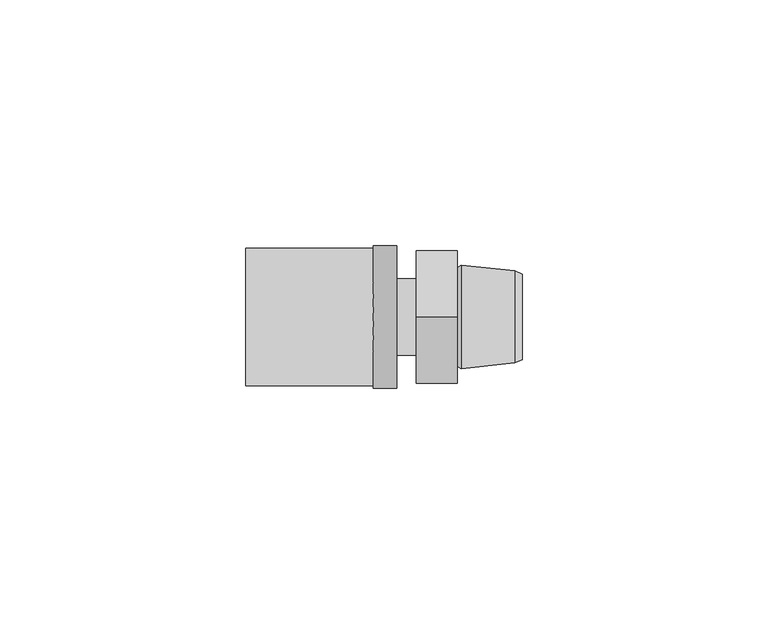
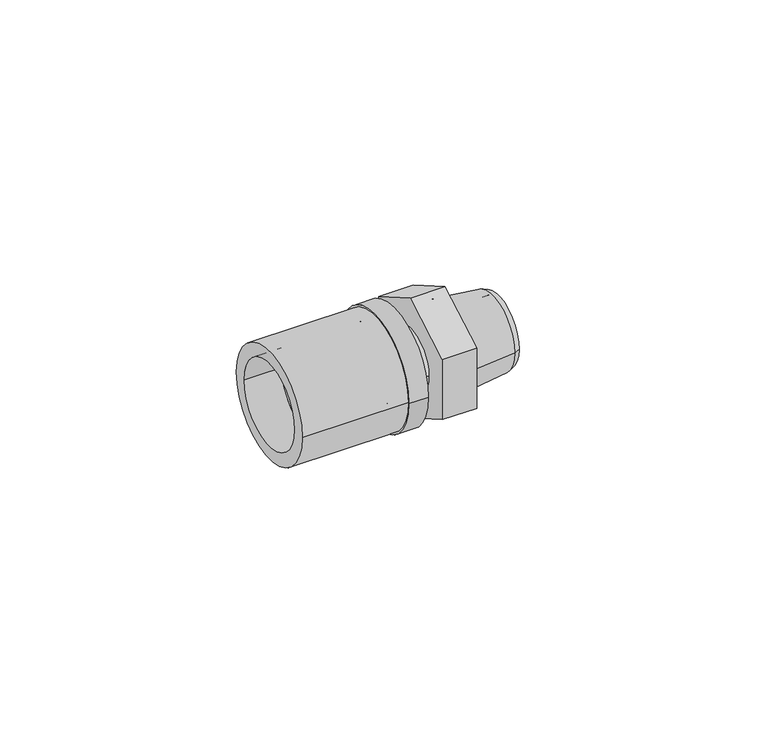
"""IFC4 building model written with IfcOpenShell, lengths in millimetres: pipe fitting geometry, FASTLOC_Adapter_LX, with external thread : FSL A C external CZ."""

from ifc_helpers import new_model, si_unit, point, frame, origin, origin_2d, place, context, project, spatial, polyline, circle_curve, trimmed, segment, composite_curve, outline, extrude, source, transform, mapped, element, save
from ifc_brep_helpers import plane_surface, cylinder_surface, revolved_surface, advanced_brep


def pipe_fitting_38e91122(model_context):
    return source(origin(), model_context, "Body", "SolidModel", [
        extrude(outline(composite_curve([segment(trimmed(circle_curve(origin_2d(), 14.0), [point((14.0, 0.0))], [point((-14.0, 0.0))], False, "CARTESIAN"), True, "CONTINUOUS"), segment(trimmed(circle_curve(origin_2d(), 14.0), [point((-14.0, 0.0))], [point((14.0, 0.0))], False, "CARTESIAN"), True, "CONTINUOUS")], self_intersect=False), holes=[composite_curve([segment(trimmed(circle_curve(origin_2d(), 10.7), [point((10.7, 0.0))], [point((-10.7, 0.0))], True, "CARTESIAN"), True, "CONTINUOUS"), segment(trimmed(circle_curve(origin_2d(), 10.7), [point((-10.7, 0.0))], [point((10.7, 0.0))], True, "CARTESIAN"), True, "CONTINUOUS")], self_intersect=False)]), frame((-34.7, 0.0, 0.0), z_axis=(1.0, 0.0, 0.0), x_axis=(0.0, 1.0, 0.0)), (0.0, 0.0, 1.0), 26.0),
        advanced_brep(
        [(-8.7, -14.5, 0.0), (-8.7, 14.5, 0.0), (-4.0, 14.5, 0.0), (-4.0, -14.5, 0.0), (-25.7, -11.85, 0.0), (-25.7, 11.85, 0.0), (-8.7, 11.85, 0.0), (-8.7, -11.85, 0.0), (-4.0, -10.15, 0.0), (-4.0, 10.15, 0.0), (-25.7, 10.15, 0.0), (-25.7, -10.15, 0.0)],
        [
            (0, 1, circle_curve(frame((-8.7, 0.0, 0.0), z_axis=(1.0, 0.0, 0.0), x_axis=(0.0, 1.0, 0.0)), 14.5)),
            (1, 2),
            (2, 3, circle_curve(frame((-4.0, 0.0, 0.0), z_axis=(-1.0, 0.0, 0.0), x_axis=(0.0, 1.0, 0.0)), 14.5)),
            (3, 0),
            (4, 5, circle_curve(frame((-25.7, 0.0, 0.0), z_axis=(1.0, 0.0, 0.0), x_axis=(0.0, 1.0, 0.0)), 11.85)),
            (5, 6),
            (6, 7, circle_curve(frame((-8.7, 0.0, 0.0), z_axis=(-1.0, 0.0, 0.0), x_axis=(0.0, 1.0, 0.0)), 11.85)),
            (7, 4),
            (8, 9, circle_curve(frame((-4.0, 0.0, 0.0), z_axis=(1.0, 0.0, 0.0), x_axis=(0.0, 1.0, 0.0)), 10.15)),
            (9, 10),
            (10, 11, circle_curve(frame((-25.7, 0.0, 0.0), z_axis=(-1.0, 0.0, 0.0), x_axis=(0.0, 1.0, 0.0)), 10.15)),
            (11, 8),
            (1, 0, circle_curve(frame((-8.7, 0.0, 0.0), z_axis=(1.0, 0.0, 0.0), x_axis=(0.0, -1.0, 0.0)), 14.5)),
            (3, 2, circle_curve(frame((-4.0, 0.0, 0.0), z_axis=(-1.0, 0.0, 0.0), x_axis=(0.0, -1.0, 0.0)), 14.5)),
            (6, 7, circle_curve(frame((-8.7, 0.0, 0.0), z_axis=(1.0, 0.0, 0.0), x_axis=(0.0, -1.0, 0.0)), 11.85)),
            (5, 4, circle_curve(frame((-25.7, 0.0, 0.0), z_axis=(1.0, 0.0, 0.0), x_axis=(0.0, -1.0, 0.0)), 11.85)),
            (10, 11, circle_curve(frame((-25.7, 0.0, 0.0), z_axis=(1.0, 0.0, 0.0), x_axis=(0.0, -1.0, 0.0)), 10.15)),
            (9, 8, circle_curve(frame((-4.0, 0.0, 0.0), z_axis=(1.0, 0.0, 0.0), x_axis=(0.0, -1.0, 0.0)), 10.15)),
        ],
        [
            cylinder_surface(frame((-4.0, 0.0, 0.0), z_axis=(-1.0, 0.0, 0.0), x_axis=(0.0, 1.0, 0.0)), 14.5),
            cylinder_surface(frame((-4.0, 0.0, 0.0), z_axis=(-1.0, 0.0, 0.0), x_axis=(0.0, 1.0, 0.0)), 11.85),
            revolved_surface(polyline([(-25.7, 10.15, 0.0), (-4.0, 10.15, 0.0)]), (-4.0, 0.0, 0.0), (-1.0, 0.0, 0.0)),
            cylinder_surface(frame((-4.0, 0.0, 0.0), z_axis=(-1.0, 0.0, 0.0), x_axis=(0.0, -1.0, 0.0)), 14.5),
            plane_surface(frame((-8.7, 0.0, 0.0), z_axis=(-1.0, 0.0, 0.0), x_axis=(0.0, -1.0, 0.0))),
            cylinder_surface(frame((-4.0, 0.0, 0.0), z_axis=(-1.0, 0.0, 0.0), x_axis=(0.0, -1.0, 0.0)), 11.85),
            plane_surface(frame((-25.7, 0.0, 0.0), z_axis=(-1.0, 0.0, 0.0), x_axis=(0.0, -1.0, 0.0))),
            revolved_surface(polyline([(-25.7, -10.15, 0.0), (-4.0, -10.15, 0.0)]), (-4.0, 0.0, 0.0), (-1.0, 0.0, 0.0)),
            plane_surface(frame((-4.0, 0.0, 0.0), z_axis=(1.0, 0.0, 0.0), x_axis=(0.0, -1.0, 0.0))),
        ],
        [
            (0, [[1, 2, 3, 4]]),
            (1, [[5, 6, 7, 8]]),
            (2, [[9, 10, 11, 12]]),
            (3, [[13, -4, 14, -2]]),
            (4, [[-13, -1], [15, -7]]),
            (5, [[16, -8, -15, -6]]),
            (6, [[-16, -5], [17, -11]]),
            (7, [[18, -12, -17, -10]]),
            (8, [[-14, -3], [-18, -9]]),
        ],
    ),
        advanced_brep(
        [(-8.7, 7.75, 0.0), (-8.7, -7.75, 0.0), (-26.0, -7.75, 0.0), (-26.0, 7.75, 0.0), (-6.0, 8.8, 0.0), (-6.0, -8.8, 0.0), (-8.7, -8.8, 0.0), (-8.7, 8.8, 0.0), (0.0, 7.75, 0.0), (0.0, -7.75, 0.0), (-6.0, -7.75, 0.0), (-6.0, 7.75, 0.0), (-26.0, 5.75, 0.0), (-26.0, -5.75, 0.0), (0.0, -5.75, 0.0), (0.0, 5.75, 0.0)],
        [
            (0, 1, circle_curve(frame((-8.7, 0.0, 0.0), z_axis=(-1.0, 0.0, 0.0), x_axis=(0.0, -1.0, 0.0)), 7.75)),
            (1, 2),
            (2, 3, circle_curve(frame((-26.0, 0.0, 0.0), z_axis=(1.0, 0.0, 0.0), x_axis=(0.0, -1.0, 0.0)), 7.75)),
            (3, 0),
            (4, 5, circle_curve(frame((-6.0, 0.0, 0.0), z_axis=(-1.0, 0.0, 0.0), x_axis=(0.0, -1.0, 0.0)), 8.8)),
            (5, 6),
            (6, 7, circle_curve(frame((-8.7, 0.0, 0.0), z_axis=(1.0, 0.0, 0.0), x_axis=(0.0, -1.0, 0.0)), 8.8)),
            (7, 4),
            (8, 9, circle_curve(frame((0.0, 0.0, 0.0), z_axis=(-1.0, 0.0, 0.0), x_axis=(0.0, -1.0, 0.0)), 7.75)),
            (9, 10),
            (10, 11, circle_curve(frame((-6.0, 0.0, 0.0), z_axis=(1.0, 0.0, 0.0), x_axis=(0.0, -1.0, 0.0)), 7.75)),
            (11, 8),
            (12, 13, circle_curve(frame((-26.0, 0.0, 0.0), z_axis=(-1.0, 0.0, 0.0), x_axis=(0.0, -1.0, 0.0)), 5.75)),
            (13, 14),
            (14, 15, circle_curve(frame((0.0, 0.0, 0.0), z_axis=(1.0, 0.0, 0.0), x_axis=(0.0, -1.0, 0.0)), 5.75)),
            (15, 12),
            (2, 3, circle_curve(frame((-26.0, 0.0, 0.0), z_axis=(-1.0, 0.0, 0.0), x_axis=(0.0, 1.0, 0.0)), 7.75)),
            (12, 13, circle_curve(frame((-26.0, 0.0, 0.0), z_axis=(1.0, 0.0, 0.0), x_axis=(0.0, 1.0, 0.0)), 5.75)),
            (1, 0, circle_curve(frame((-8.7, 0.0, 0.0), z_axis=(-1.0, 0.0, 0.0), x_axis=(0.0, 1.0, 0.0)), 7.75)),
            (6, 7, circle_curve(frame((-8.7, 0.0, 0.0), z_axis=(-1.0, 0.0, 0.0), x_axis=(0.0, 1.0, 0.0)), 8.8)),
            (5, 4, circle_curve(frame((-6.0, 0.0, 0.0), z_axis=(-1.0, 0.0, 0.0), x_axis=(0.0, 1.0, 0.0)), 8.8)),
            (10, 11, circle_curve(frame((-6.0, 0.0, 0.0), z_axis=(-1.0, 0.0, 0.0), x_axis=(0.0, 1.0, 0.0)), 7.75)),
            (9, 8, circle_curve(frame((0.0, 0.0, 0.0), z_axis=(-1.0, 0.0, 0.0), x_axis=(0.0, 1.0, 0.0)), 7.75)),
            (14, 15, circle_curve(frame((0.0, 0.0, 0.0), z_axis=(-1.0, 0.0, 0.0), x_axis=(0.0, 1.0, 0.0)), 5.75)),
        ],
        [
            cylinder_surface(frame((0.0, 0.0, 0.0), z_axis=(1.0, 0.0, 0.0), x_axis=(0.0, -1.0, 0.0)), 7.75),
            cylinder_surface(frame((0.0, 0.0, 0.0), z_axis=(1.0, 0.0, 0.0), x_axis=(0.0, -1.0, 0.0)), 8.8),
            revolved_surface(polyline([(0.0, -5.75, 0.0), (-26.0, -5.75, 0.0)]), (0.0, 0.0, 0.0), (1.0, 0.0, 0.0)),
            plane_surface(frame((-26.0, 0.0, 0.0), z_axis=(-1.0, 0.0, 0.0), x_axis=(0.0, 1.0, 0.0))),
            cylinder_surface(frame((0.0, 0.0, 0.0), z_axis=(1.0, 0.0, 0.0), x_axis=(0.0, 1.0, 0.0)), 7.75),
            plane_surface(frame((-8.7, 0.0, 0.0), z_axis=(-1.0, 0.0, 0.0), x_axis=(0.0, 1.0, 0.0))),
            cylinder_surface(frame((0.0, 0.0, 0.0), z_axis=(1.0, 0.0, 0.0), x_axis=(0.0, 1.0, 0.0)), 8.8),
            plane_surface(frame((-6.0, 0.0, 0.0), z_axis=(1.0, 0.0, 0.0), x_axis=(0.0, 1.0, 0.0))),
            plane_surface(frame((0.0, 0.0, 0.0), z_axis=(1.0, 0.0, 0.0), x_axis=(0.0, 1.0, 0.0))),
            revolved_surface(polyline([(0.0, 5.75, 0.0), (-26.0, 5.75, 0.0)]), (0.0, 0.0, 0.0), (1.0, 0.0, 0.0)),
        ],
        [
            (0, [[1, 2, 3, 4]]),
            (1, [[5, 6, 7, 8]]),
            (0, [[9, 10, 11, 12]]),
            (2, [[13, 14, 15, 16]]),
            (3, [[17, -3], [18, -13]]),
            (4, [[19, -4, -17, -2]]),
            (5, [[20, -7], [-19, -1]]),
            (6, [[21, -8, -20, -6]]),
            (7, [[-21, -5], [22, -11]]),
            (4, [[23, -12, -22, -10]]),
            (8, [[-23, -9], [24, -15]]),
            (9, [[-18, -16, -24, -14]]),
        ],
    ),
        advanced_brep(
        [(9.5032803, 7.5, 0.0), (9.5032803, -7.5, 0.0), (21.6, -7.5, 0.0), (21.6, 7.5, 0.0), (8.4, 6.3967197, 0.0), (8.4, -6.3967197, 0.0), (9.1406902, 10.55, 0.0), (9.1406902, -10.55, 0.0), (8.4, -10.0, 0.0), (8.4, 10.0, 0.0), (20.1000007, 9.35, 0.0), (20.1000007, -9.35, 0.0), (21.6, 8.725, 0.0), (21.6, -8.725, 0.0)],
        [
            (0, 1, circle_curve(frame((9.5032803, 0.0, 0.0), z_axis=(-1.0, 0.0, 0.0), x_axis=(0.0, -1.0, 0.0)), 7.5)),
            (1, 2),
            (2, 3, circle_curve(frame((21.6, 0.0, 0.0), z_axis=(1.0, 0.0, 0.0), x_axis=(0.0, -1.0, 0.0)), 7.5)),
            (3, 0),
            (4, 5, circle_curve(frame((8.4, 0.0, 0.0), z_axis=(-1.0, 0.0, 0.0), x_axis=(0.0, -1.0, 0.0)), 6.3967197)),
            (5, 1),
            (0, 4),
            (6, 7, circle_curve(frame((9.1406902, 0.0, 0.0), z_axis=(-1.0, 0.0, 0.0), x_axis=(0.0, -1.0, 0.0)), 10.55)),
            (7, 8),
            (8, 9, circle_curve(frame((8.4, 0.0, 0.0), z_axis=(1.0, 0.0, 0.0), x_axis=(0.0, -1.0, 0.0)), 10.0)),
            (9, 6),
            (10, 11, circle_curve(frame((20.1000007, 0.0, 0.0), z_axis=(-1.0, 0.0, 0.0), x_axis=(0.0, -1.0, 0.0)), 9.35)),
            (11, 7),
            (6, 10),
            (12, 13, circle_curve(frame((21.6, 0.0, 0.0), z_axis=(-1.0, 0.0, 0.0), x_axis=(0.0, -1.0, 0.0)), 8.725)),
            (13, 11),
            (10, 12),
            (1, 0, circle_curve(frame((9.5032803, 0.0, 0.0), z_axis=(-1.0, 0.0, 0.0), x_axis=(0.0, 1.0, 0.0)), 7.5)),
            (3, 2, circle_curve(frame((21.6, 0.0, 0.0), z_axis=(1.0, 0.0, 0.0), x_axis=(0.0, 1.0, 0.0)), 7.5)),
            (5, 4, circle_curve(frame((8.4, 0.0, 0.0), z_axis=(-1.0, 0.0, 0.0), x_axis=(0.0, 1.0, 0.0)), 6.3967197)),
            (8, 9, circle_curve(frame((8.4, 0.0, 0.0), z_axis=(-1.0, 0.0, 0.0), x_axis=(0.0, 1.0, 0.0)), 10.0)),
            (7, 6, circle_curve(frame((9.1406902, 0.0, 0.0), z_axis=(-1.0, 0.0, 0.0), x_axis=(0.0, 1.0, 0.0)), 10.55)),
            (11, 10, circle_curve(frame((20.1000007, 0.0, 0.0), z_axis=(-1.0, 0.0, 0.0), x_axis=(0.0, 1.0, 0.0)), 9.35)),
            (13, 12, circle_curve(frame((21.6, 0.0, 0.0), z_axis=(-1.0, 0.0, 0.0), x_axis=(0.0, 1.0, 0.0)), 8.725)),
        ],
        [
            revolved_surface(polyline([(21.6, -7.5, 0.0), (9.5032803, -7.5, 0.0)]), (0.0, 0.0, 0.0), (1.0, 0.0, 0.0)),
            revolved_surface(polyline([(9.5032803, -7.5, 0.0), (8.4, -6.3967197, 0.0)]), (0.0, 0.0, 0.0), (1.0, 0.0, 0.0)),
            revolved_surface(polyline([(8.4, -10.0, 0.0), (9.1406902, -10.55, 0.0)]), (0.0, 0.0, 0.0), (1.0, 0.0, 0.0)),
            revolved_surface(polyline([(9.1406902, -10.55, 0.0), (20.1000007, -9.35, 0.0)]), (0.0, 0.0, 0.0), (1.0, 0.0, 0.0)),
            revolved_surface(polyline([(20.1000007, -9.35, 0.0), (21.6, -8.725, 0.0)]), (0.0, 0.0, 0.0), (1.0, 0.0, 0.0)),
            revolved_surface(polyline([(21.6, 7.5, 0.0), (9.5032803, 7.5, 0.0)]), (0.0, 0.0, 0.0), (1.0, 0.0, 0.0)),
            revolved_surface(polyline([(9.5032803, 7.5, 0.0), (8.4, 6.3967197, 0.0)]), (0.0, 0.0, 0.0), (1.0, 0.0, 0.0)),
            plane_surface(frame((8.4, 0.0, 0.0), z_axis=(-1.0, 0.0, 0.0), x_axis=(0.0, 1.0, 0.0))),
            revolved_surface(polyline([(8.4, 10.0, 0.0), (9.1406902, 10.55, 0.0)]), (0.0, 0.0, 0.0), (1.0, 0.0, 0.0)),
            revolved_surface(polyline([(9.1406902, 10.55, 0.0), (20.1000007, 9.35, 0.0)]), (0.0, 0.0, 0.0), (1.0, 0.0, 0.0)),
            revolved_surface(polyline([(20.1000007, 9.35, 0.0), (21.6, 8.725, 0.0)]), (0.0, 0.0, 0.0), (1.0, 0.0, 0.0)),
            plane_surface(frame((21.6, 0.0, 0.0), z_axis=(1.0, 0.0, 0.0), x_axis=(0.0, 1.0, 0.0))),
        ],
        [
            (0, [[1, 2, 3, 4]]),
            (1, [[5, 6, -1, 7]]),
            (2, [[8, 9, 10, 11]]),
            (3, [[12, 13, -8, 14]]),
            (4, [[15, 16, -12, 17]]),
            (5, [[18, -4, 19, -2]]),
            (6, [[20, -7, -18, -6]]),
            (7, [[21, -10], [-20, -5]]),
            (8, [[22, -11, -21, -9]]),
            (9, [[23, -14, -22, -13]]),
            (10, [[24, -17, -23, -16]]),
            (11, [[-24, -15], [-19, -3]]),
        ],
    ),
        extrude(outline(polyline([(-13.5, 7.7942286), (0.0, 15.5884573), (13.5, 7.7942286), (13.5, -7.7942286), (0.0, -15.5884573), (-13.5, -7.7942286), (-13.5, 7.7942286)])), frame((0.0, 0.0, 0.0), z_axis=(1.0, 0.0, 0.0), x_axis=(0.0, 1.0, 0.0)), (0.0, 0.0, 1.0), 8.4),
    ])


if __name__ == "__main__":
    model = new_model("IFC4")
    model_context = context("Model", 3, world=origin())
    ifc_project = project(units=[si_unit("LENGTHUNIT", "METRE", prefix="MILLI")], contexts=[model_context])
    site = spatial("IfcSite", under=ifc_project)
    building = spatial("IfcBuilding", under=site)
    placement = place(None, origin())
    pipe_fitting_shape = pipe_fitting_38e91122(model_context)
    element("IfcPipeFitting", 1, ObjectType="FASTLOC_Adapter_LX, with external thread : FSL A C external CZ", at=placement, inside=building, context=model_context, shape_type="MappedRepresentation", body=[
        mapped(pipe_fitting_shape, transform((0.0, 0.0, 0.0), x_axis=(1.0, 0.0, 0.0), y_axis=(0.0, 1.0, 0.0), z_axis=(0.0, 0.0, 1.0))),
    ])
    save(model, "model.ifc")
